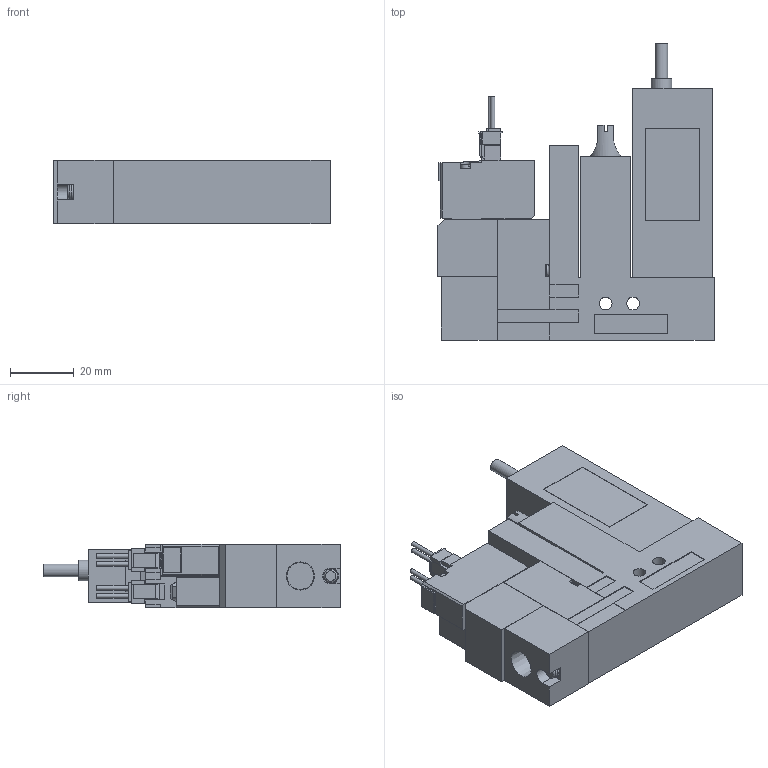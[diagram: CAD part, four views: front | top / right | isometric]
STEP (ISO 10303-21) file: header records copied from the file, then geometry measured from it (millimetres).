
FILE_DESCRIPTION(('STEP AP203'),'1');
FILE_NAME('VG_VGPL5ALR.stp','2025-02-17T00:16:50',(' '),(' '),'Spatial InterOp 3D',' ',' ');
FILE_SCHEMA(('CONFIG_CONTROL_DESIGN'));
Length unit declared in the file: millimetre
Products named in the file (5): BMC22S※※※※VG_VGPL5ALR; Solenoid valve A; Pressure sensor VGL; Unit L; Base SR10R
Assembly tree (4 placements, depth 2):
  BMC22S※※※※VG_VGPL5ALR
    Solenoid valve A
    Pressure sensor VGL
    Unit L
    Base SR10R
Bounding box: 86.6 x 93 x 20 mm (x, y, z)
Volume: 100024.2 mm3; surface area: 26627.4 mm2
Topology: 4 solids, 4 shells, 382 faces, 1011 edges, 668 vertices
Faces by surface type: plane 326, cylinder 47, cone 6, torus 3
Full cylindrical faces by diameter (mm): 1.4 x4, 2.5 x3, 3 x4, 3.5 x4, 3.6 x1, 4 x6, 4.134 x1, 6 x1, 6.5 x1
Entity records: 11753 total; most frequent: CARTESIAN_POINT 2105, ORIENTED_EDGE 1930, DIRECTION 1865, EDGE_CURVE 965, LINE 831, VECTOR 831, VERTEX_POINT 657, AXIS2_PLACEMENT_3D 517
